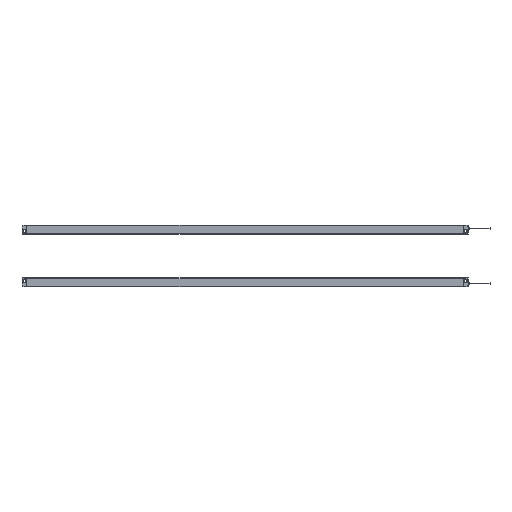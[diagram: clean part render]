
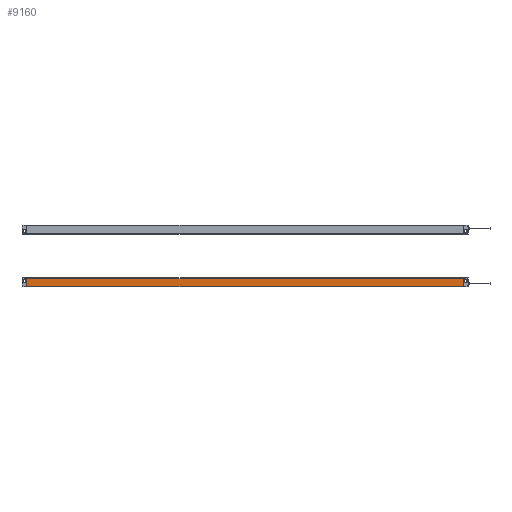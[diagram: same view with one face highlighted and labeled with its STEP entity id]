
A CAD part, left-side view. The second image highlights one B-rep face of the part: STEP entity #9160.
In plain terms, the highlighted planar face has unit normal (-1, 0, 0).
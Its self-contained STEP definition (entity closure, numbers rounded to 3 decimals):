
#481 = DIRECTION ( 'NONE',  ( 0., 0., 1. ) ) ;
#562 = VERTEX_POINT ( 'NONE', #5641 ) ;
#1320 = EDGE_CURVE ( 'NONE', #562, #4745, #7030, .T. ) ;
#1342 = LINE ( 'NONE', #3180, #2016 ) ;
#1358 = CARTESIAN_POINT ( 'NONE',  ( -12.5, -1000., -9.2 ) ) ;
#1417 = LINE ( 'NONE', #9025, #3001 ) ;
#2016 = VECTOR ( 'NONE', #9672, 1000. ) ;
#2092 = VERTEX_POINT ( 'NONE', #5850 ) ;
#2465 = CARTESIAN_POINT ( 'NONE',  ( -12.5, -1000., -9.2 ) ) ;
#2590 = FACE_OUTER_BOUND ( 'NONE', #7434, .T. ) ;
#2616 = VECTOR ( 'NONE', #6721, 1000. ) ;
#2938 = VECTOR ( 'NONE', #7666, 1000. ) ;
#3001 = VECTOR ( 'NONE', #4789, 1000. ) ;
#3180 = CARTESIAN_POINT ( 'NONE',  ( -12.5, -1000., 8.293 ) ) ;
#4745 = VERTEX_POINT ( 'NONE', #4813 ) ;
#4789 = DIRECTION ( 'NONE',  ( 0., 0., 1. ) ) ;
#4795 = EDGE_CURVE ( 'NONE', #2092, #8564, #1417, .T. ) ;
#4813 = CARTESIAN_POINT ( 'NONE',  ( -12.5, -1000., 8.293 ) ) ;
#5641 = CARTESIAN_POINT ( 'NONE',  ( -12.5, -1000., -9.2 ) ) ;
#5850 = CARTESIAN_POINT ( 'NONE',  ( -12.5, 0., -9.2 ) ) ;
#6721 = DIRECTION ( 'NONE',  ( 0., 1., 0. ) ) ;
#6745 = ORIENTED_EDGE ( 'NONE', *, *, #1320, .T. ) ;
#7030 = LINE ( 'NONE', #8451, #2938 ) ;
#7088 = LINE ( 'NONE', #2465, #2616 ) ;
#7251 = DIRECTION ( 'NONE',  ( -1., 0., 0. ) ) ;
#7434 = EDGE_LOOP ( 'NONE', ( #10371, #10405, #6745, #9411 ) ) ;
#7666 = DIRECTION ( 'NONE',  ( 0., 0., 1. ) ) ;
#8260 = EDGE_CURVE ( 'NONE', #562, #2092, #7088, .T. ) ;
#8451 = CARTESIAN_POINT ( 'NONE',  ( -12.5, -1000., -9.2 ) ) ;
#8564 = VERTEX_POINT ( 'NONE', #10186 ) ;
#8944 = PLANE ( 'NONE',  #9757 ) ;
#9025 = CARTESIAN_POINT ( 'NONE',  ( -12.5, 0., -9.2 ) ) ;
#9160 = ADVANCED_FACE ( 'NONE', ( #2590 ), #8944, .T. ) ;
#9411 = ORIENTED_EDGE ( 'NONE', *, *, #10777, .T. ) ;
#9672 = DIRECTION ( 'NONE',  ( 0., 1., 0. ) ) ;
#9757 = AXIS2_PLACEMENT_3D ( 'NONE', #1358, #7251, #481 ) ;
#10186 = CARTESIAN_POINT ( 'NONE',  ( -12.5, 0., 8.293 ) ) ;
#10371 = ORIENTED_EDGE ( 'NONE', *, *, #4795, .F. ) ;
#10405 = ORIENTED_EDGE ( 'NONE', *, *, #8260, .F. ) ;
#10777 = EDGE_CURVE ( 'NONE', #4745, #8564, #1342, .T. ) ;
